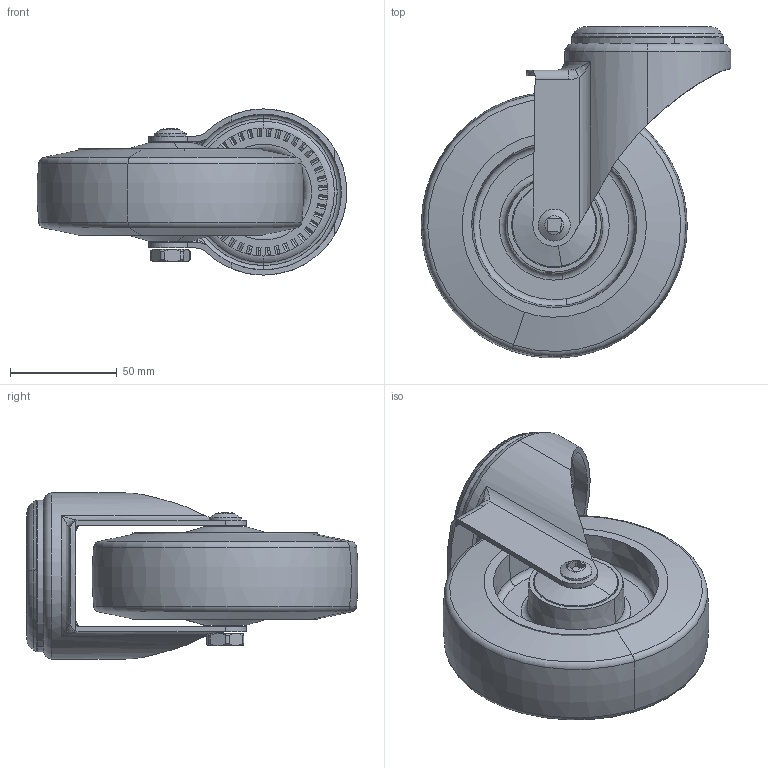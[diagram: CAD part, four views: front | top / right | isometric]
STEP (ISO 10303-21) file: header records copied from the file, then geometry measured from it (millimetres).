
FILE_DESCRIPTION (( 'STEP AP203' ), '1' );
FILE_NAME ('400231_STEP.STEP', '2011-10-21T11:54:06', ( '' ), ( '' ), 'SwSTEP 2.0', 'SolidWorks 2011', '' );
FILE_SCHEMA (( 'CONFIG_CONTROL_DESIGN' ));
Length unit declared in the file: millimetre
Products named in the file (1): 400231_STEP
Bounding box: 145.24 x 155.75 x 78 mm (x, y, z)
Surface area: 99596.2 mm2 (no closed solid volume)
Topology: 0 solids, 14 shells, 265 faces, 836 edges, 548 vertices
Faces by surface type: plane 117, cylinder 58, torus 46, cone 36, bspline 8
Entity records: 10041 total; most frequent: CARTESIAN_POINT 2883, DIRECTION 1474, ORIENTED_EDGE 1456, EDGE_CURVE 832, AXIS2_PLACEMENT_3D 562, VERTEX_POINT 548, LINE 350, VECTOR 350
